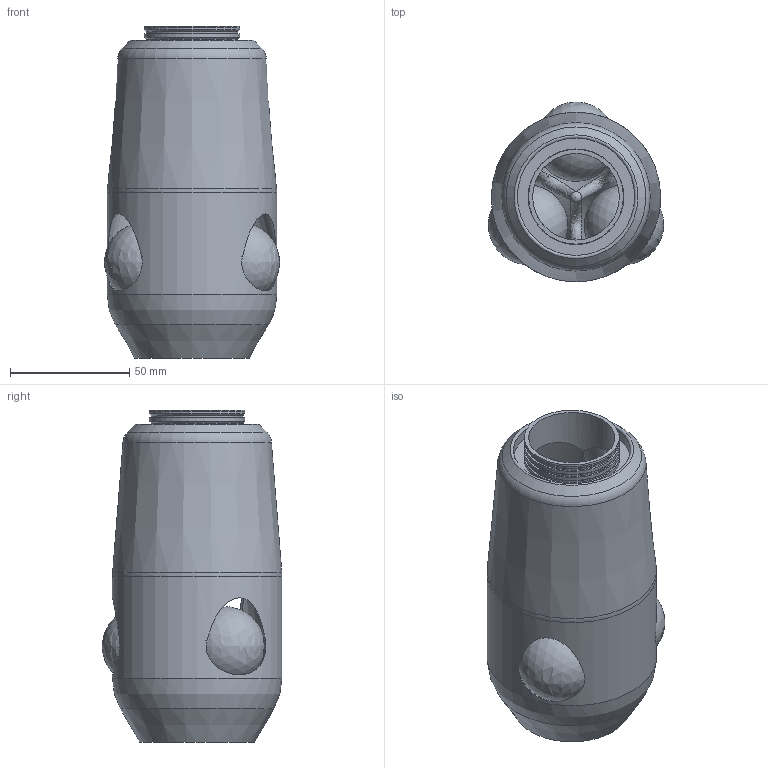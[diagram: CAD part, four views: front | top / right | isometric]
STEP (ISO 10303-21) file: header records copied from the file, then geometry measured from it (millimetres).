
FILE_DESCRIPTION(/* description */ (''),/* implementation_level */ '2;1');
FILE_NAME(/* name */ 'UpsideDown Mechanism.step',/* time_stamp */ '2024-10-27T20:46:44-04:00',/* author */ (''),/* organization */ (''),/* preprocessor_version */ 'ST-DEVELOPER v20',/* originating_system */ 'Autodesk Translation Framework v13.20.0.188',/* authorisation */ '');
FILE_SCHEMA (('AUTOMOTIVE_DESIGN { 1 0 10303 214 3 1 1 }'));
Length unit declared in the file: inch
Products named in the file (1): UpsideDown Peg Ball Bearing 1 et 5 16
Bounding box: 73.6 x 75.47 x 139.34 mm (x, y, z)
Volume: 311298.4 mm3; surface area: 63417.5 mm2
Topology: 4 solids, 4 shells, 40 faces, 101 edges, 64 vertices
Faces by surface type: cylinder 13, cone 7, sphere 7, plane 6, bspline 5, torus 2
Full cylindrical faces by diameter (mm): 34.337 x3, 36.338 x1, 38.507 x3, 40.094 x4, 49.219 x1, 71.12 x1
Entity records: 1853 total; most frequent: CARTESIAN_POINT 889, DIRECTION 202, ORIENTED_EDGE 188, EDGE_CURVE 94, AXIS2_PLACEMENT_3D 91, VERTEX_POINT 64, CIRCLE 49, EDGE_LOOP 48
